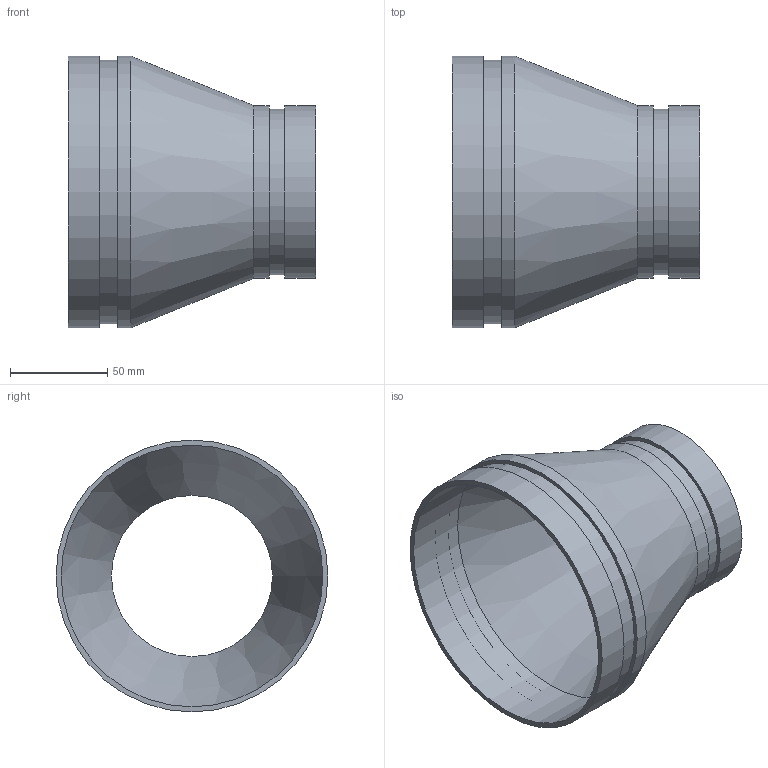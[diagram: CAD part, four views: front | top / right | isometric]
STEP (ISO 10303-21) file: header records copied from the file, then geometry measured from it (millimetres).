
FILE_DESCRIPTION(/* description */ ('VIC REDUCER CONCENTRIC No 450-SS','CAx-IF Rec.Pracs.---Representation and Presentation of Product Manufacturing Information (PMI)---4.0---2014-10-13'),/* implementation_level */ '2;1');
FILE_NAME(/* name */ 'C:\Users\kkamble\AppData\Roaming\Autodesk\ApplicationPlugins\Back Up\Victaulic_SS-OGS_Reducer Concentric_Sched 10S_No 450 SS (OGS)\Victaulic_SS-OGS_Reducer Concentric_Sched 10S_No 450 SS (OGS)_05.0 (139.7)x03.0 (125x80).stp',/* time_stamp */ '2020-09-08T12:33:15+05:00',/* author */ ('CORINNE GRAY'),/* organization */ ('Victaulic'),/* preprocessor_version */ 'ST-DEVELOPER v17.2',/* originating_system */ 'Autodesk Inventor 2019',/* authorisation */ '');
FILE_SCHEMA (('AP242_MANAGED_MODEL_BASED_3D_ENGINEERING_MIM_LF { 1 0 10303 442 1 1 4 }'));
Length unit declared in the file: inch
Products named in the file (1): 450 SS-05.0 (139.7)x03.0
Bounding box: 127 x 139.7 x 139.7 mm (x, y, z)
Volume: 111177 mm3; surface area: 97084.3 mm2
Topology: 1 solids, 1 shells, 16 faces, 42 edges, 32 vertices
Faces by surface type: cylinder 8, plane 6, cone 2
Full cylindrical faces by diameter (mm): 82.804 x1, 84.938 x1, 88.9 x2, 134.493 x1, 135.484 x1, 139.7 x2
Entity records: 686 total; most frequent: DIRECTION 134, CARTESIAN_POINT 108, ORIENTED_EDGE 84, AXIS2_PLACEMENT_3D 62, EDGE_CURVE 42, CIRCLE 32, VERTEX_POINT 32, EDGE_LOOP 22
